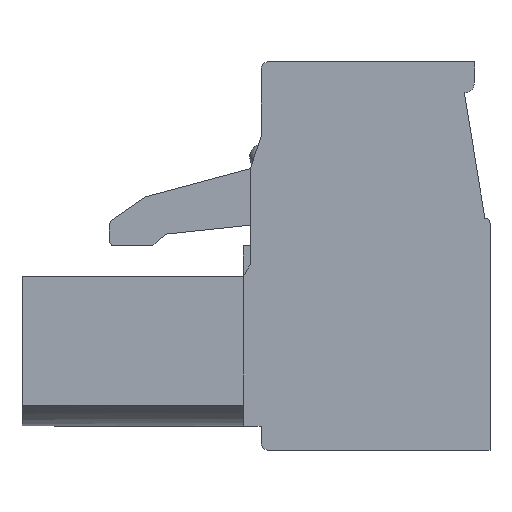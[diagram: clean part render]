
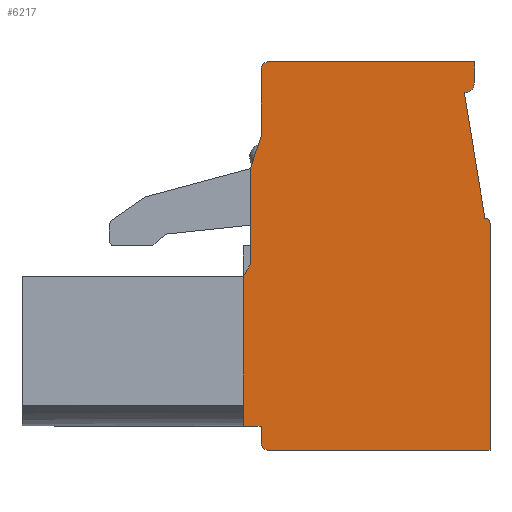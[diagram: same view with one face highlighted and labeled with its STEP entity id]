
A CAD part, left-side view. The second image highlights one B-rep face of the part: STEP entity #6217.
In plain terms, the highlighted planar face has unit normal (-1, 0, 0).
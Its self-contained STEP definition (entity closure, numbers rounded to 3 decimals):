
#457=CARTESIAN_POINT('',(14.35,0.2,-6.275));
#458=DIRECTION('',(1.,0.,0.));
#459=DIRECTION('',(0.,0.,1.));
#460=AXIS2_PLACEMENT_3D('',#457,#458,#459);
#462=DIRECTION('',(0.,0.,-1.));
#463=VECTOR('',#462,8.825);
#464=CARTESIAN_POINT('',(14.35,0.,-6.275));
#465=LINE('',#464,#463);
#466=DIRECTION('',(0.,1.,0.));
#467=VECTOR('',#466,8.6);
#468=CARTESIAN_POINT('',(14.35,0.,-15.1));
#469=LINE('',#468,#467);
#470=CARTESIAN_POINT('',(14.35,8.6,-14.8));
#471=DIRECTION('',(1.,0.,0.));
#472=DIRECTION('',(0.,0.,-1.));
#473=AXIS2_PLACEMENT_3D('',#470,#471,#472);
#475=DIRECTION('',(0.,0.,1.));
#476=VECTOR('',#475,0.63);
#477=CARTESIAN_POINT('',(14.35,8.9,-14.8));
#478=LINE('',#477,#476);
#479=DIRECTION('',(0.,1.,0.));
#480=VECTOR('',#479,0.7);
#481=CARTESIAN_POINT('',(14.35,8.9,-14.17));
#482=LINE('',#481,#480);
#483=DIRECTION('',(0.,0.,1.));
#484=VECTOR('',#483,5.82);
#485=CARTESIAN_POINT('',(14.35,9.6,-14.17));
#486=LINE('',#485,#484);
#487=DIRECTION('',(0.,-0.514,0.857));
#488=VECTOR('',#487,0.583);
#489=CARTESIAN_POINT('',(14.35,9.6,-8.35));
#490=LINE('',#489,#488);
#491=DIRECTION('',(0.,0.,1.));
#492=VECTOR('',#491,3.75);
#493=CARTESIAN_POINT('',(14.35,9.3,-7.85));
#494=LINE('',#493,#492);
#495=DIRECTION('',(0.,-0.316,0.949));
#496=VECTOR('',#495,1.265);
#497=CARTESIAN_POINT('',(14.35,9.3,-4.1));
#498=LINE('',#497,#496);
#499=DIRECTION('',(0.,0.,1.));
#500=VECTOR('',#499,2.6);
#501=CARTESIAN_POINT('',(14.35,8.9,-2.9));
#502=LINE('',#501,#500);
#503=CARTESIAN_POINT('',(14.35,8.6,-0.3));
#504=DIRECTION('',(1.,0.,0.));
#505=DIRECTION('',(0.,1.,0.));
#506=AXIS2_PLACEMENT_3D('',#503,#504,#505);
#508=DIRECTION('',(0.,-1.,0.));
#509=VECTOR('',#508,8.);
#510=CARTESIAN_POINT('',(14.35,8.6,0.));
#511=LINE('',#510,#509);
#512=DIRECTION('',(0.,0.,-1.));
#513=VECTOR('',#512,0.8);
#514=CARTESIAN_POINT('',(14.35,0.6,0.));
#515=LINE('',#514,#513);
#516=CARTESIAN_POINT('',(14.35,1.,-0.8));
#517=DIRECTION('',(1.,0.,0.));
#518=DIRECTION('',(0.,-1.,0.));
#519=AXIS2_PLACEMENT_3D('',#516,#517,#518);
#521=DIRECTION('',(0.,-0.162,-0.987));
#522=VECTOR('',#521,4.94);
#523=CARTESIAN_POINT('',(14.35,1.,-1.2));
#524=LINE('',#523,#522);
#4666=CARTESIAN_POINT('',(14.35,9.3,-4.1));
#4667=VERTEX_POINT('',#4666);
#4668=CARTESIAN_POINT('',(14.35,9.3,-7.85));
#4669=VERTEX_POINT('',#4668);
#4700=CARTESIAN_POINT('',(14.35,8.9,-2.9));
#4701=VERTEX_POINT('',#4700);
#4738=CARTESIAN_POINT('',(14.35,8.9,-0.3));
#4739=VERTEX_POINT('',#4738);
#4740=CARTESIAN_POINT('',(14.35,8.6,0.));
#4741=VERTEX_POINT('',#4740);
#4742=CARTESIAN_POINT('',(14.35,0.6,0.));
#4743=VERTEX_POINT('',#4742);
#4780=CARTESIAN_POINT('',(14.35,0.6,-0.8));
#4781=VERTEX_POINT('',#4780);
#4786=CARTESIAN_POINT('',(14.35,1.,-1.2));
#4787=VERTEX_POINT('',#4786);
#4890=CARTESIAN_POINT('',(14.35,0.,-15.1));
#4891=VERTEX_POINT('',#4890);
#4892=CARTESIAN_POINT('',(14.35,0.,-6.275));
#4893=VERTEX_POINT('',#4892);
#4996=CARTESIAN_POINT('',(14.35,0.2,-6.075));
#4997=VERTEX_POINT('',#4996);
#4998=CARTESIAN_POINT('',(14.35,8.6,-15.1));
#4999=VERTEX_POINT('',#4998);
#5000=CARTESIAN_POINT('',(14.35,8.9,-14.8));
#5001=VERTEX_POINT('',#5000);
#5002=CARTESIAN_POINT('',(14.35,8.9,-14.17));
#5003=VERTEX_POINT('',#5002);
#5004=CARTESIAN_POINT('',(14.35,9.6,-14.17));
#5005=VERTEX_POINT('',#5004);
#5006=CARTESIAN_POINT('',(14.35,9.6,-8.35));
#5007=VERTEX_POINT('',#5006);
#6180=CARTESIAN_POINT('',(14.35,0.,-15.1));
#6181=DIRECTION('',(-1.,0.,0.));
#6182=DIRECTION('',(0.,0.,1.));
#6183=AXIS2_PLACEMENT_3D('',#6180,#6181,#6182);
#6184=PLANE('',#6183);
#6185=ORIENTED_EDGE('',*,*,#6172,.T.);
#6186=ORIENTED_EDGE('',*,*,#5933,.T.);
#6188=ORIENTED_EDGE('',*,*,#6187,.T.);
#6190=ORIENTED_EDGE('',*,*,#6189,.T.);
#6192=ORIENTED_EDGE('',*,*,#6191,.T.);
#6194=ORIENTED_EDGE('',*,*,#6193,.T.);
#6196=ORIENTED_EDGE('',*,*,#6195,.T.);
#6198=ORIENTED_EDGE('',*,*,#6197,.T.);
#6200=ORIENTED_EDGE('',*,*,#6199,.T.);
#6202=ORIENTED_EDGE('',*,*,#6201,.T.);
#6204=ORIENTED_EDGE('',*,*,#6203,.T.);
#6206=ORIENTED_EDGE('',*,*,#6205,.T.);
#6208=ORIENTED_EDGE('',*,*,#6207,.T.);
#6210=ORIENTED_EDGE('',*,*,#6209,.T.);
#6212=ORIENTED_EDGE('',*,*,#6211,.T.);
#6214=ORIENTED_EDGE('',*,*,#6213,.T.);
#6215=EDGE_LOOP('',(#6185,#6186,#6188,#6190,#6192,#6194,#6196,#6198,#6200,#6202,
#6204,#6206,#6208,#6210,#6212,#6214));
#6216=FACE_OUTER_BOUND('',#6215,.F.);
#6217=ADVANCED_FACE('',(#6216),#6184,.T.);
#461=CIRCLE('',#460,0.2);
#474=CIRCLE('',#473,0.3);
#507=CIRCLE('',#506,0.3);
#520=CIRCLE('',#519,0.4);
#5933=EDGE_CURVE('',#4893,#4891,#465,.T.);
#6172=EDGE_CURVE('',#4997,#4893,#461,.T.);
#6187=EDGE_CURVE('',#4891,#4999,#469,.T.);
#6189=EDGE_CURVE('',#4999,#5001,#474,.T.);
#6191=EDGE_CURVE('',#5001,#5003,#478,.T.);
#6193=EDGE_CURVE('',#5003,#5005,#482,.T.);
#6195=EDGE_CURVE('',#5005,#5007,#486,.T.);
#6197=EDGE_CURVE('',#5007,#4669,#490,.T.);
#6199=EDGE_CURVE('',#4669,#4667,#494,.T.);
#6201=EDGE_CURVE('',#4667,#4701,#498,.T.);
#6203=EDGE_CURVE('',#4701,#4739,#502,.T.);
#6205=EDGE_CURVE('',#4739,#4741,#507,.T.);
#6207=EDGE_CURVE('',#4741,#4743,#511,.T.);
#6209=EDGE_CURVE('',#4743,#4781,#515,.T.);
#6211=EDGE_CURVE('',#4781,#4787,#520,.T.);
#6213=EDGE_CURVE('',#4787,#4997,#524,.T.);
